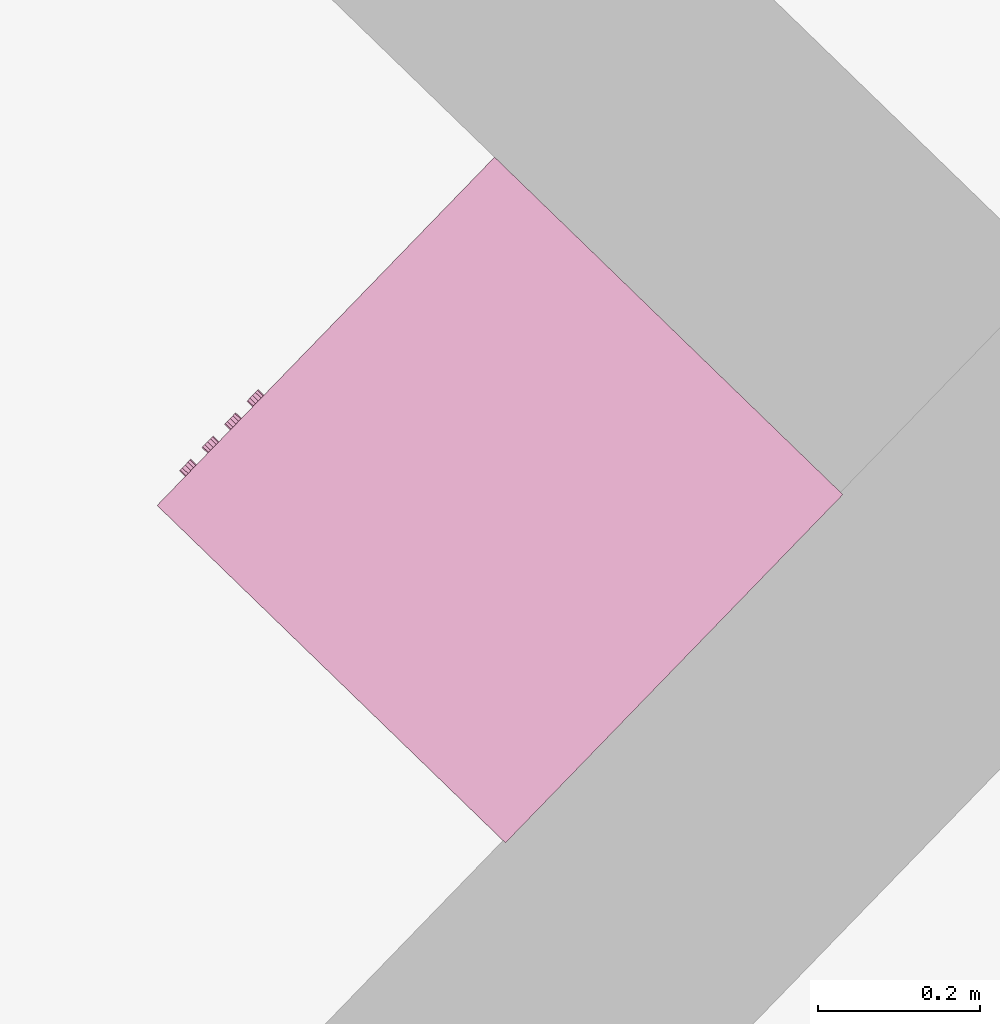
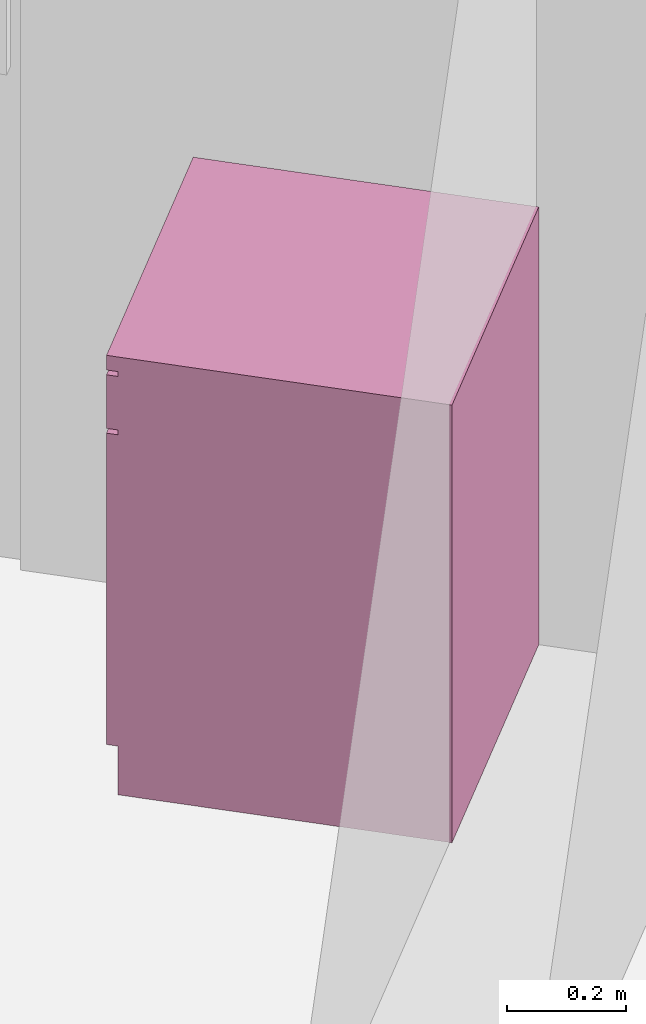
# One storey, part 100 of 121: 1 furnishing.
"""IFC2X3 building model written with IfcOpenShell, lengths in metres."""

from ifc_helpers import new_model, entity, si_unit, converted_unit, derived_unit, money_unit, direction, frame, origin_with_axes, place, context, subcontext, project, spatial, open_shell, faceted_brep, surface_model, source, transform, mapped, type_object, element, save


model = new_model("IFC2X3")

# Units and contexts
model_context = context("Model", 3, precision=1e-05, world=origin_with_axes(), true_north=direction((0.0, 1.0)))
body_context = subcontext(model_context, "Body", "Model", "MODEL_VIEW")
ifc_project = project(units=[si_unit("LENGTHUNIT", "METRE"), si_unit("AREAUNIT", "SQUARE_METRE"), si_unit("VOLUMEUNIT", "CUBIC_METRE"), converted_unit("PLANEANGLEUNIT", "DEGREE", entity("IfcPlaneAngleMeasure", 0.0174532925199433), si_unit("PLANEANGLEUNIT", "RADIAN"), dimensions=[0, 0, 0, 0, 0, 0, 0]), money_unit("CHF"), converted_unit("TIMEUNIT", "Year", entity("IfcTimeMeasure", 31557600.0), si_unit("TIMEUNIT", "SECOND"), dimensions=[0, 0, 1, 0, 0, 0, 0]), si_unit("MASSUNIT", "GRAM", prefix="KILO"), si_unit("THERMODYNAMICTEMPERATUREUNIT", "DEGREE_CELSIUS"), si_unit("LUMINOUSINTENSITYUNIT", "LUMEN"), si_unit("ENERGYUNIT", "JOULE", prefix="MEGA"), derived_unit("THERMALCONDUCTANCEUNIT", [(si_unit("POWERUNIT", "WATT"), 1), (si_unit("LENGTHUNIT", "METRE"), -1), (si_unit("THERMODYNAMICTEMPERATUREUNIT", "KELVIN"), -1)]), derived_unit("SPECIFICHEATCAPACITYUNIT", [(si_unit("ENERGYUNIT", "JOULE"), 1), (si_unit("MASSUNIT", "GRAM", prefix="KILO"), -1), (si_unit("THERMODYNAMICTEMPERATUREUNIT", "KELVIN"), -1)]), derived_unit("MASSDENSITYUNIT", [(si_unit("MASSUNIT", "GRAM", prefix="KILO"), 1), (si_unit("VOLUMEUNIT", "CUBIC_METRE"), -1)])], contexts=[model_context])

# Site, building, storey
site_placement = place(None, origin_with_axes())
site = spatial("IfcSite", under=ifc_project, at=site_placement, Name="Site", CompositionType="ELEMENT")
building_placement = place(site_placement, origin_with_axes())
building = spatial("IfcBuilding", under=site, at=building_placement, Name="Bâtiment", CompositionType="ELEMENT")
storey_placement = place(building_placement, frame((0.0, 0.0, 2.75), z_axis=(0.0, 0.0, 1.0), x_axis=(1.0, 0.0, 0.0)))
storey = spatial("IfcBuildingStorey", under=building, at=storey_placement, Name="Etage 1", CompositionType="ELEMENT", Elevation=2.75)

# Furnishing
furnishing_element_type = type_object("IfcFurnishingElementType", Name="Machine à laver")
shared_shape = source(origin_with_axes(), body_context, "Body", "SurfaceModel", [
    faceted_brep([(0.0, 0.02, 0.1), (0.0, 0.0, 0.1), (-0.6, 0.0, 0.1), (-0.6, 0.02, 0.1), (0.0, 0.02000000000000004, 0.74), (0.0, 0.0, 0.74), (-0.6, 0.0, 0.74), (-0.4714285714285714, 0.0, 0.42), (-0.4655872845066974, 0.0, 0.4643689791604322), (-0.448461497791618, 0.0, 0.5057142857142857), (-0.4212183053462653, 0.0, 0.5412183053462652), (-0.3857142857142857, 0.0, 0.568461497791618), (-0.3443689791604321, 0.0, 0.5855872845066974), (-0.3, 0.0, 0.5914285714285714), (-0.2556310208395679, 0.0, 0.5855872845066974), (-0.2142857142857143, 0.0, 0.5684614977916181), (-0.1787816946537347, 0.0, 0.5412183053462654), (-0.1515385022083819, 0.0, 0.5057142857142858), (-0.1344127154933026, 0.0, 0.4643689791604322), (-0.1285714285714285, 0.0, 0.42), (-0.1344127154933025, 0.0, 0.3756310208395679), (-0.1515385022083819, 0.0, 0.3342857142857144), (-0.1787816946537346, 0.0, 0.2987816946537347), (-0.2142857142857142, 0.0, 0.2715385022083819), (-0.2556310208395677, 0.0, 0.2544127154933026), (-0.2999999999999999, 0.0, 0.2485714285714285), (-0.344368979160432, 0.0, 0.2544127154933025), (-0.3857142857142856, 0.0, 0.2715385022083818), (-0.4212183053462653, 0.0, 0.2987816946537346), (-0.448461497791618, 0.0, 0.3342857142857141), (-0.4655872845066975, 0.0, 0.3756310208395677), (-0.6, 0.02000000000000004, 0.74), (-0.4714285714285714, 0.02000000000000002, 0.42), (-0.4655872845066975, 0.02000000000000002, 0.3756310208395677), (-0.448461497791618, 0.02000000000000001, 0.3342857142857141), (-0.4212183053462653, 0.02000000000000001, 0.2987816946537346), (-0.3857142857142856, 0.02000000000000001, 0.2715385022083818), (-0.344368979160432, 0.02000000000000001, 0.2544127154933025), (-0.2999999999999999, 0.02000000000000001, 0.2485714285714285), (-0.2556310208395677, 0.02000000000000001, 0.2544127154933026), (-0.2142857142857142, 0.02000000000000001, 0.2715385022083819), (-0.1787816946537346, 0.02000000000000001, 0.2987816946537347), (-0.1515385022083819, 0.02000000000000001, 0.3342857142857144), (-0.1344127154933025, 0.02000000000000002, 0.3756310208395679), (-0.1285714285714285, 0.02000000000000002, 0.42), (-0.1344127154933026, 0.02000000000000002, 0.4643689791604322), (-0.1515385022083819, 0.02000000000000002, 0.5057142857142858), (-0.1787816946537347, 0.02000000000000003, 0.5412183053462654), (-0.2142857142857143, 0.02000000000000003, 0.5684614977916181), (-0.2556310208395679, 0.02000000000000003, 0.5855872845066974), (-0.3, 0.02000000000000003, 0.5914285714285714), (-0.3443689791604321, 0.02000000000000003, 0.5855872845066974), (-0.3857142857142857, 0.02000000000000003, 0.568461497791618), (-0.4212183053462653, 0.02000000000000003, 0.5412183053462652), (-0.448461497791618, 0.02000000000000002, 0.5057142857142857), (-0.4655872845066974, 0.02000000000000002, 0.4643689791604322)], [[[0, 1, 2, 3]], [[4, 5, 1, 0]], [[1, 5, 6, 2], [7, 8, 9, 10, 11, 12, 13, 14, 15, 16, 17, 18, 19, 20, 21, 22, 23, 24, 25, 26, 27, 28, 29, 30]], [[3, 2, 6, 31]], [[0, 3, 31, 4], [32, 33, 34, 35, 36, 37, 38, 39, 40, 41, 42, 43, 44, 45, 46, 47, 48, 49, 50, 51, 52, 53, 54, 55]], [[31, 6, 5, 4]], [[55, 8, 7, 32]], [[54, 9, 8, 55]], [[53, 10, 9, 54]], [[52, 11, 10, 53]], [[51, 12, 11, 52]], [[50, 13, 12, 51]], [[49, 14, 13, 50]], [[48, 15, 14, 49]], [[47, 16, 15, 48]], [[46, 17, 16, 47]], [[45, 18, 17, 46]], [[44, 19, 18, 45]], [[43, 20, 19, 44]], [[42, 21, 20, 43]], [[41, 22, 21, 42]], [[40, 23, 22, 41]], [[39, 24, 23, 40]], [[38, 25, 24, 39]], [[37, 26, 25, 38]], [[36, 27, 26, 37]], [[35, 28, 27, 36]], [[34, 29, 28, 35]], [[33, 30, 29, 34]], [[32, 7, 30, 33]]]),
    faceted_brep([(-0.4714285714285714, 0.04000000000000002, 0.42), (-0.4714285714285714, 0.02000000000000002, 0.42), (-0.4655872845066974, 0.02000000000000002, 0.4643689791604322), (-0.4655872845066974, 0.04000000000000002, 0.4643689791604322), (-0.4655872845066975, 0.04000000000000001, 0.3756310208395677), (-0.4655872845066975, 0.02000000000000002, 0.3756310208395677), (-0.448461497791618, 0.02000000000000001, 0.3342857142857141), (-0.4212183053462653, 0.02000000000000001, 0.2987816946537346), (-0.3857142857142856, 0.02000000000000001, 0.2715385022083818), (-0.344368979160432, 0.02000000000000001, 0.2544127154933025), (-0.2999999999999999, 0.02000000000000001, 0.2485714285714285), (-0.2556310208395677, 0.02000000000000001, 0.2544127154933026), (-0.2142857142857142, 0.02000000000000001, 0.2715385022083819), (-0.1787816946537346, 0.02000000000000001, 0.2987816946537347), (-0.1515385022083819, 0.02000000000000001, 0.3342857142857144), (-0.1344127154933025, 0.02000000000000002, 0.3756310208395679), (-0.1285714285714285, 0.02000000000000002, 0.42), (-0.1344127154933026, 0.02000000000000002, 0.4643689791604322), (-0.1515385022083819, 0.02000000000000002, 0.5057142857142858), (-0.1787816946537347, 0.02000000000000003, 0.5412183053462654), (-0.2142857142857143, 0.02000000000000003, 0.5684614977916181), (-0.2556310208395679, 0.02000000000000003, 0.5855872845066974), (-0.3, 0.02000000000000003, 0.5914285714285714), (-0.3443689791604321, 0.02000000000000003, 0.5855872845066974), (-0.3857142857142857, 0.02000000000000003, 0.568461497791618), (-0.4212183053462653, 0.02000000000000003, 0.5412183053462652), (-0.448461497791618, 0.02000000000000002, 0.5057142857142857), (-0.4371428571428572, 0.02000000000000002, 0.42), (-0.432469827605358, 0.02000000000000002, 0.4554951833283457), (-0.4187691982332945, 0.02000000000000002, 0.4885714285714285), (-0.3969746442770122, 0.02000000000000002, 0.5169746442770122), (-0.3685714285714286, 0.02000000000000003, 0.5387691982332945), (-0.3354951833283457, 0.02000000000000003, 0.552469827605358), (-0.3, 0.02000000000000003, 0.5571428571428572), (-0.2645048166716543, 0.02000000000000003, 0.552469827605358), (-0.2314285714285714, 0.02000000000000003, 0.5387691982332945), (-0.2030253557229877, 0.02000000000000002, 0.5169746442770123), (-0.1812308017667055, 0.02000000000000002, 0.4885714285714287), (-0.167530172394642, 0.02000000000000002, 0.4554951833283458), (-0.1628571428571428, 0.02000000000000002, 0.42), (-0.167530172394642, 0.02000000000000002, 0.3845048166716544), (-0.1812308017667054, 0.02000000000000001, 0.3514285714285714), (-0.2030253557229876, 0.02000000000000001, 0.3230253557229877), (-0.2314285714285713, 0.02000000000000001, 0.3012308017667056), (-0.2645048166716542, 0.02000000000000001, 0.287530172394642), (-0.2999999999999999, 0.02000000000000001, 0.2828571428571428), (-0.3354951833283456, 0.02000000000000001, 0.287530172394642), (-0.3685714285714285, 0.02000000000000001, 0.3012308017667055), (-0.3969746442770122, 0.02000000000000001, 0.3230253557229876), (-0.4187691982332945, 0.02000000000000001, 0.3514285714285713), (-0.432469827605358, 0.02000000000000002, 0.3845048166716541), (-0.448461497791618, 0.04000000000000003, 0.5057142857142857), (-0.4212183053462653, 0.04000000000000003, 0.5412183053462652), (-0.3857142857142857, 0.04000000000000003, 0.568461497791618), (-0.3443689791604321, 0.04000000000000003, 0.5855872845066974), (-0.3, 0.04000000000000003, 0.5914285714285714), (-0.2556310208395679, 0.04000000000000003, 0.5855872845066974), (-0.2142857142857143, 0.04000000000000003, 0.5684614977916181), (-0.1787816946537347, 0.04000000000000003, 0.5412183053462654), (-0.1515385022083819, 0.04000000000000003, 0.5057142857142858), (-0.1344127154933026, 0.04000000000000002, 0.4643689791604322), (-0.1285714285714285, 0.04000000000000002, 0.42), (-0.1344127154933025, 0.04000000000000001, 0.3756310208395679), (-0.1515385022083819, 0.04000000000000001, 0.3342857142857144), (-0.1787816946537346, 0.04000000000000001, 0.2987816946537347), (-0.2142857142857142, 0.04000000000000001, 0.2715385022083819), (-0.2556310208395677, 0.04000000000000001, 0.2544127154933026), (-0.2999999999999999, 0.04000000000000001, 0.2485714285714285), (-0.344368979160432, 0.04000000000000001, 0.2544127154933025), (-0.3857142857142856, 0.04000000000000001, 0.2715385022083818), (-0.4212183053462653, 0.04000000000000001, 0.2987816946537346), (-0.448461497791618, 0.04000000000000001, 0.3342857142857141), (-0.4371428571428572, 0.04000000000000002, 0.42), (-0.432469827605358, 0.04000000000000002, 0.3845048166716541), (-0.4187691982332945, 0.04000000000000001, 0.3514285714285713), (-0.3969746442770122, 0.04000000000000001, 0.3230253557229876), (-0.3685714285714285, 0.04000000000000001, 0.3012308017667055), (-0.3354951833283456, 0.04000000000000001, 0.287530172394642), (-0.2999999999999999, 0.04000000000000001, 0.2828571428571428), (-0.2645048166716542, 0.04000000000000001, 0.287530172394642), (-0.2314285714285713, 0.04000000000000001, 0.3012308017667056), (-0.2030253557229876, 0.04000000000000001, 0.3230253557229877), (-0.1812308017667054, 0.04000000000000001, 0.3514285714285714), (-0.167530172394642, 0.04000000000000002, 0.3845048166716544), (-0.1628571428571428, 0.04000000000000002, 0.42), (-0.167530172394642, 0.04000000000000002, 0.4554951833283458), (-0.1812308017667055, 0.04000000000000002, 0.4885714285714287), (-0.2030253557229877, 0.04000000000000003, 0.5169746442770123), (-0.2314285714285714, 0.04000000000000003, 0.5387691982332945), (-0.2645048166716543, 0.04000000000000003, 0.552469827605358), (-0.3, 0.04000000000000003, 0.5571428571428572), (-0.3354951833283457, 0.04000000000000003, 0.552469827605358), (-0.3685714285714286, 0.04000000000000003, 0.5387691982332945), (-0.3969746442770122, 0.04000000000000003, 0.5169746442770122), (-0.4187691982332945, 0.04000000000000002, 0.4885714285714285), (-0.432469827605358, 0.04000000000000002, 0.4554951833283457)], [[[0, 1, 2, 3]], [[4, 5, 1, 0]], [[1, 5, 6, 7, 8, 9, 10, 11, 12, 13, 14, 15, 16, 17, 18, 19, 20, 21, 22, 23, 24, 25, 26, 2], [27, 28, 29, 30, 31, 32, 33, 34, 35, 36, 37, 38, 39, 40, 41, 42, 43, 44, 45, 46, 47, 48, 49, 50]], [[3, 2, 26, 51]], [[0, 3, 51, 52, 53, 54, 55, 56, 57, 58, 59, 60, 61, 62, 63, 64, 65, 66, 67, 68, 69, 70, 71, 4], [72, 73, 74, 75, 76, 77, 78, 79, 80, 81, 82, 83, 84, 85, 86, 87, 88, 89, 90, 91, 92, 93, 94, 95]], [[71, 6, 5, 4]], [[70, 7, 6, 71]], [[69, 8, 7, 70]], [[68, 9, 8, 69]], [[67, 10, 9, 68]], [[66, 11, 10, 67]], [[65, 12, 11, 66]], [[64, 13, 12, 65]], [[63, 14, 13, 64]], [[62, 15, 14, 63]], [[61, 16, 15, 62]], [[60, 17, 16, 61]], [[59, 18, 17, 60]], [[58, 19, 18, 59]], [[57, 20, 19, 58]], [[56, 21, 20, 57]], [[55, 22, 21, 56]], [[54, 23, 22, 55]], [[53, 24, 23, 54]], [[52, 25, 24, 53]], [[51, 26, 25, 52]], [[95, 28, 27, 72]], [[94, 29, 28, 95]], [[93, 30, 29, 94]], [[92, 31, 30, 93]], [[91, 32, 31, 92]], [[90, 33, 32, 91]], [[89, 34, 33, 90]], [[88, 35, 34, 89]], [[87, 36, 35, 88]], [[86, 37, 36, 87]], [[85, 38, 37, 86]], [[84, 39, 38, 85]], [[83, 40, 39, 84]], [[82, 41, 40, 83]], [[81, 42, 41, 82]], [[80, 43, 42, 81]], [[79, 44, 43, 80]], [[78, 45, 44, 79]], [[77, 46, 45, 78]], [[76, 47, 46, 77]], [[75, 48, 47, 76]], [[74, 49, 48, 75]], [[73, 50, 49, 74]], [[72, 27, 50, 73]]]),
    surface_model("IfcShellBasedSurfaceModel", [(-0.2645048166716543, 0.03999999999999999, 0.552469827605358), (-0.2733786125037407, 0.14, 0.5193523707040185), (-0.3, 0.14, 0.5228571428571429), (-0.3, 0.03999999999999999, 0.5571428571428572), (-0.2314285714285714, 0.03999999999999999, 0.5387691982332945), (-0.2485714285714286, 0.14, 0.5090768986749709), (-0.2272690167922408, 0.14, 0.4927309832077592), (-0.2109231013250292, 0.14, 0.4714285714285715), (-0.2006476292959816, 0.14, 0.4466213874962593), (-0.1971428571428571, 0.14, 0.4200000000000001), (-0.2006476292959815, 0.14, 0.3933786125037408), (-0.2109231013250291, 0.14, 0.3685714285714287), (-0.2272690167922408, 0.14, 0.3472690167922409), (-0.2485714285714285, 0.14, 0.3309231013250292), (-0.2733786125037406, 0.14, 0.3206476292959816), (-0.2999999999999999, 0.14, 0.3171428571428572), (-0.3266213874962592, 0.14, 0.3206476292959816), (-0.3514285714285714, 0.14, 0.3309231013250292), (-0.3727309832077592, 0.14, 0.3472690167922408), (-0.3890768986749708, 0.14, 0.3685714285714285), (-0.3993523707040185, 0.14, 0.3933786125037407), (-0.4028571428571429, 0.14, 0.42), (-0.3993523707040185, 0.14, 0.4466213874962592), (-0.3890768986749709, 0.14, 0.4714285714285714), (-0.3727309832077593, 0.14, 0.4927309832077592), (-0.3514285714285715, 0.14, 0.5090768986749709), (-0.3266213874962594, 0.14, 0.5193523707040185), (-0.3354951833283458, 0.03999999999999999, 0.552469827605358), (-0.2030253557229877, 0.03999999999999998, 0.5169746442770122), (-0.1812308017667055, 0.03999999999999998, 0.4885714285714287), (-0.167530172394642, 0.03999999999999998, 0.4554951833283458), (-0.1628571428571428, 0.03999999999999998, 0.4200000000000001), (-0.167530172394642, 0.03999999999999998, 0.3845048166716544), (-0.1812308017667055, 0.03999999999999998, 0.3514285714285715), (-0.2030253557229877, 0.03999999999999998, 0.3230253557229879), (-0.2314285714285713, 0.03999999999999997, 0.3012308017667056), (-0.2645048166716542, 0.03999999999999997, 0.2875301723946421), (-0.2999999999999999, 0.03999999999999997, 0.2828571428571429), (-0.3354951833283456, 0.03999999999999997, 0.2875301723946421), (-0.3685714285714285, 0.03999999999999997, 0.3012308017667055), (-0.3969746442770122, 0.03999999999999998, 0.3230253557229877), (-0.4187691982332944, 0.03999999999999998, 0.3514285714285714), (-0.432469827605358, 0.03999999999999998, 0.3845048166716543), (-0.4371428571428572, 0.03999999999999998, 0.4199999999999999), (-0.432469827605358, 0.03999999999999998, 0.4554951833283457), (-0.4187691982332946, 0.03999999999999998, 0.4885714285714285), (-0.3969746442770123, 0.03999999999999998, 0.5169746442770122), (-0.3685714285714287, 0.03999999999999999, 0.5387691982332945)], [open_shell([[[0, 1, 2, 3]], [[4, 5, 1, 0]], [[2, 1, 5, 6, 7, 8, 9, 10, 11, 12, 13, 14, 15, 16, 17, 18, 19, 20, 21, 22, 23, 24, 25, 26]], [[3, 2, 26, 27]], [[28, 6, 5, 4]], [[29, 7, 6, 28]], [[30, 8, 7, 29]], [[31, 9, 8, 30]], [[32, 10, 9, 31]], [[33, 11, 10, 32]], [[34, 12, 11, 33]], [[35, 13, 12, 34]], [[36, 14, 13, 35]], [[37, 15, 14, 36]], [[38, 16, 15, 37]], [[39, 17, 16, 38]], [[40, 18, 17, 39]], [[41, 19, 18, 40]], [[42, 20, 19, 41]], [[43, 21, 20, 42]], [[44, 22, 21, 43]], [[45, 23, 22, 44]], [[46, 24, 23, 45]], [[47, 25, 24, 46]], [[27, 26, 25, 47]]])]),
    surface_model("IfcShellBasedSurfaceModel", [(0.0, 0.02, 0.1), (0.0, 0.6, 0.09999999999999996), (0.0, 0.6, 0.87), (0.0, 0.02000000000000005, 0.87)], [open_shell([[[0, 1, 2, 3]]])]),
    surface_model("IfcShellBasedSurfaceModel", [(-0.6, 0.01999999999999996, 0.1), (-0.6, 0.5999999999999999, 0.09999999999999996), (-0.6, 0.5999999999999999, 0.87), (-0.6, 0.02000000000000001, 0.87)], [open_shell([[[0, 1, 2, 3]]])]),
    surface_model("IfcShellBasedSurfaceModel", [(0.0, 0.6, 0.1), (-0.6, 0.6, 0.1), (-0.6, 0.6, 0.87), (0.0, 0.6, 0.87)], [open_shell([[[0, 1, 2, 3]]])]),
    faceted_brep([(0.0, 0.02, 0.0), (0.0, 0.02, 0.1), (-0.6, 0.02, 0.1), (-0.6, 0.02, 0.0), (0.0, 0.6, 0.0), (0.0, 0.6, 0.1), (-0.6, 0.6, 0.1), (-0.6, 0.6, 0.0)], [[[0, 1, 2, 3]], [[4, 5, 1, 0]], [[1, 5, 6, 2]], [[3, 2, 6, 7]], [[0, 3, 7, 4]], [[7, 6, 5, 4]]]),
    faceted_brep([(0.0, 0.02, 0.75), (0.0, 0.0, 0.75), (-0.6, 0.0, 0.75), (-0.6, 0.02, 0.75), (0.0, 0.02000000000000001, 0.86), (0.0, 0.0, 0.86), (-0.6, 0.0, 0.86), (-0.6, 0.02000000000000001, 0.86)], [[[0, 1, 2, 3]], [[4, 5, 1, 0]], [[1, 5, 6, 2]], [[3, 2, 6, 7]], [[0, 3, 7, 4]], [[7, 6, 5, 4]]]),
    surface_model("IfcShellBasedSurfaceModel", [(0.0, 0.02, 0.74), (-0.6, 0.02, 0.74), (-0.6, 0.02000000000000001, 0.87), (0.0, 0.02000000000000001, 0.87)], [open_shell([[[0, 1, 2, 3]]])]),
    faceted_brep([(0.0, 0.0, 0.87), (0.0, 0.0, 0.9), (-0.6, 0.0, 0.9), (-0.6, 0.0, 0.87), (0.0, 0.6, 0.87), (0.0, 0.6, 0.9), (-0.6, 0.6, 0.9), (-0.6, 0.6, 0.87)], [[[0, 1, 2, 3]], [[4, 5, 1, 0]], [[1, 5, 6, 2]], [[3, 2, 6, 7]], [[0, 3, 7, 4]], [[7, 6, 5, 4]]]),
    faceted_brep([(-0.06866025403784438, 0.0, 0.8049999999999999), (-0.06999999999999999, 0.0, 0.8099999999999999), (-0.06866025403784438, 0.0, 0.815), (-0.065, 0.0, 0.8186602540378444), (-0.06, 0.0, 0.82), (-0.055, 0.0, 0.8186602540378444), (-0.05133974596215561, 0.0, 0.815), (-0.05, 0.0, 0.8099999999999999), (-0.05133974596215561, 0.0, 0.8049999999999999), (-0.05499999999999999, 0.0, 0.8013397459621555), (-0.05999999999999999, 0.0, 0.7999999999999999), (-0.06499999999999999, 0.0, 0.8013397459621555), (-0.06866025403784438, -0.01, 0.8049999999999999), (-0.06999999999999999, -0.01, 0.8099999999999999), (-0.06866025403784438, -0.01, 0.815), (-0.065, -0.01, 0.8186602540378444), (-0.06, -0.01, 0.82), (-0.055, -0.01, 0.8186602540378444), (-0.05133974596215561, -0.01, 0.815), (-0.05, -0.01, 0.8099999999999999), (-0.05133974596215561, -0.01, 0.8049999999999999), (-0.05499999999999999, -0.01, 0.8013397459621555), (-0.05999999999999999, -0.01, 0.7999999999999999), (-0.06499999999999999, -0.01, 0.8013397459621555)], [[[0, 1, 2, 3, 4, 5, 6, 7, 8, 9, 10, 11]], [[0, 12, 13, 1]], [[1, 13, 14, 2]], [[2, 14, 15, 3]], [[3, 15, 16, 4]], [[4, 16, 17, 5]], [[5, 17, 18, 6]], [[6, 18, 19, 7]], [[7, 19, 20, 8]], [[8, 20, 21, 9]], [[9, 21, 22, 10]], [[10, 22, 23, 11]], [[11, 23, 12, 0]], [[12, 23, 22, 21, 20, 19, 18, 17, 16, 15, 14, 13]]]),
    faceted_brep([(-0.1086602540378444, 0.0, 0.8049999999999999), (-0.11, 0.0, 0.8099999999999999), (-0.1086602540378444, 0.0, 0.815), (-0.105, 0.0, 0.8186602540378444), (-0.1, 0.0, 0.82), (-0.095, 0.0, 0.8186602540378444), (-0.09133974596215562, 0.0, 0.815), (-0.09000000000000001, 0.0, 0.8099999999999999), (-0.09133974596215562, 0.0, 0.8049999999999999), (-0.095, 0.0, 0.8013397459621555), (-0.09999999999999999, 0.0, 0.7999999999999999), (-0.105, 0.0, 0.8013397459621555), (-0.1086602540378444, -0.01, 0.8049999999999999), (-0.11, -0.01, 0.8099999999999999), (-0.1086602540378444, -0.01, 0.815), (-0.105, -0.01, 0.8186602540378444), (-0.1, -0.01, 0.82), (-0.095, -0.01, 0.8186602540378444), (-0.09133974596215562, -0.01, 0.815), (-0.09000000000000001, -0.01, 0.8099999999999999), (-0.09133974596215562, -0.01, 0.8049999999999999), (-0.095, -0.01, 0.8013397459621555), (-0.09999999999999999, -0.01, 0.7999999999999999), (-0.105, -0.01, 0.8013397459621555)], [[[0, 1, 2, 3, 4, 5, 6, 7, 8, 9, 10, 11]], [[0, 12, 13, 1]], [[1, 13, 14, 2]], [[2, 14, 15, 3]], [[3, 15, 16, 4]], [[4, 16, 17, 5]], [[5, 17, 18, 6]], [[6, 18, 19, 7]], [[7, 19, 20, 8]], [[8, 20, 21, 9]], [[9, 21, 22, 10]], [[10, 22, 23, 11]], [[11, 23, 12, 0]], [[12, 23, 22, 21, 20, 19, 18, 17, 16, 15, 14, 13]]]),
    faceted_brep([(-0.1486602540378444, 0.0, 0.8049999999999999), (-0.15, 0.0, 0.8099999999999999), (-0.1486602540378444, 0.0, 0.815), (-0.145, 0.0, 0.8186602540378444), (-0.14, 0.0, 0.82), (-0.135, 0.0, 0.8186602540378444), (-0.1313397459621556, 0.0, 0.815), (-0.13, 0.0, 0.8099999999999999), (-0.1313397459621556, 0.0, 0.8049999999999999), (-0.135, 0.0, 0.8013397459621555), (-0.14, 0.0, 0.7999999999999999), (-0.145, 0.0, 0.8013397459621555), (-0.1486602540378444, -0.01, 0.8049999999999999), (-0.15, -0.01, 0.8099999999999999), (-0.1486602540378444, -0.01, 0.815), (-0.145, -0.01, 0.8186602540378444), (-0.14, -0.01, 0.82), (-0.135, -0.01, 0.8186602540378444), (-0.1313397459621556, -0.01, 0.815), (-0.13, -0.01, 0.8099999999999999), (-0.1313397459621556, -0.01, 0.8049999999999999), (-0.135, -0.01, 0.8013397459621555), (-0.14, -0.01, 0.7999999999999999), (-0.145, -0.01, 0.8013397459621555)], [[[0, 1, 2, 3, 4, 5, 6, 7, 8, 9, 10, 11]], [[0, 12, 13, 1]], [[1, 13, 14, 2]], [[2, 14, 15, 3]], [[3, 15, 16, 4]], [[4, 16, 17, 5]], [[5, 17, 18, 6]], [[6, 18, 19, 7]], [[7, 19, 20, 8]], [[8, 20, 21, 9]], [[9, 21, 22, 10]], [[10, 22, 23, 11]], [[11, 23, 12, 0]], [[12, 23, 22, 21, 20, 19, 18, 17, 16, 15, 14, 13]]]),
    faceted_brep([(-0.1886602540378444, 0.0, 0.8049999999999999), (-0.19, 0.0, 0.8099999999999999), (-0.1886602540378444, 0.0, 0.815), (-0.185, 0.0, 0.8186602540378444), (-0.18, 0.0, 0.82), (-0.175, 0.0, 0.8186602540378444), (-0.1713397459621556, 0.0, 0.815), (-0.17, 0.0, 0.8099999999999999), (-0.1713397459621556, 0.0, 0.8049999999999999), (-0.175, 0.0, 0.8013397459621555), (-0.18, 0.0, 0.7999999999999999), (-0.185, 0.0, 0.8013397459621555), (-0.1886602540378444, -0.01, 0.8049999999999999), (-0.19, -0.01, 0.8099999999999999), (-0.1886602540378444, -0.01, 0.815), (-0.185, -0.01, 0.8186602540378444), (-0.18, -0.01, 0.82), (-0.175, -0.01, 0.8186602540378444), (-0.1713397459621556, -0.01, 0.815), (-0.17, -0.01, 0.8099999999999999), (-0.1713397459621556, -0.01, 0.8049999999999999), (-0.175, -0.01, 0.8013397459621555), (-0.18, -0.01, 0.7999999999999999), (-0.185, -0.01, 0.8013397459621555)], [[[0, 1, 2, 3, 4, 5, 6, 7, 8, 9, 10, 11]], [[0, 12, 13, 1]], [[1, 13, 14, 2]], [[2, 14, 15, 3]], [[3, 15, 16, 4]], [[4, 16, 17, 5]], [[5, 17, 18, 6]], [[6, 18, 19, 7]], [[7, 19, 20, 8]], [[8, 20, 21, 9]], [[9, 21, 22, 10]], [[10, 22, 23, 11]], [[11, 23, 12, 0]], [[12, 23, 22, 21, 20, 19, 18, 17, 16, 15, 14, 13]]]),
])
furnishing_placement = place(storey_placement, frame((9529.488189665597, -1063.285886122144, 57.7), z_axis=(0.0, 0.0, 1.0), x_axis=(-0.6958124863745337, -0.718223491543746, 0.0)))
element("IfcFurnishingElement", 1, at=furnishing_placement, inside=storey, type_object=furnishing_element_type, Name="Obj.-019", context=body_context, shape_type="MappedRepresentation", body=[
    mapped(shared_shape, transform((0.0, 0.0, 0.0))),
])

save(model, "model.ifc")
